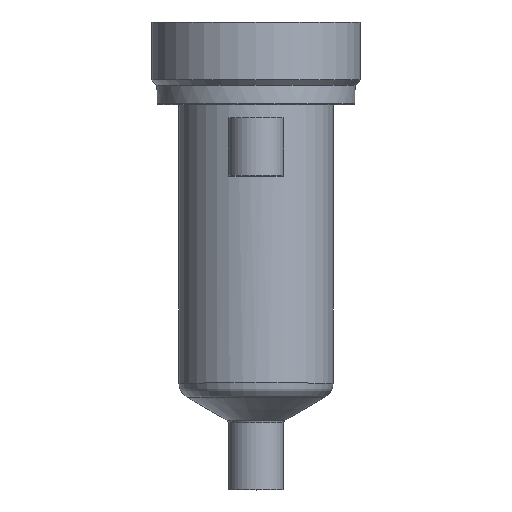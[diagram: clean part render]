
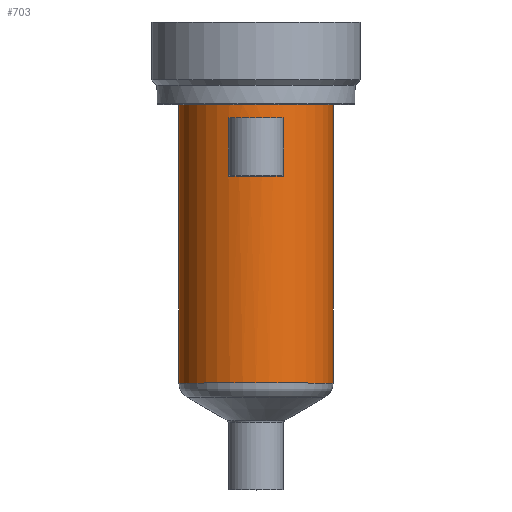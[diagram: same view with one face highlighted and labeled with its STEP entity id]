
A CAD part, top view. The second image highlights one B-rep face of the part: STEP entity #703.
In plain terms, the highlighted cylindrical face has radius 14 mm (diameter 28 mm), a partial arc.
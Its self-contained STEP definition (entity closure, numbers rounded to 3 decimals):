
#195=DIRECTION('',(0.,-1.,0.));
#196=VECTOR('',#195,50.583);
#197=CARTESIAN_POINT('',(14.,0.,0.));
#198=LINE('',#197,#196);
#199=CARTESIAN_POINT('',(0.,-50.583,0.));
#200=DIRECTION('',(0.,1.,0.));
#201=DIRECTION('',(-1.,0.,0.));
#202=AXIS2_PLACEMENT_3D('',#199,#200,#201);
#204=DIRECTION('',(0.,1.,0.));
#205=VECTOR('',#204,50.583);
#206=CARTESIAN_POINT('',(-14.,-50.583,0.));
#207=LINE('',#206,#205);
#208=CARTESIAN_POINT('',(0.,0.,0.));
#209=DIRECTION('',(0.,1.,0.));
#210=DIRECTION('',(-1.,0.,0.));
#211=AXIS2_PLACEMENT_3D('',#208,#209,#210);
#289=DIRECTION('',(0.,-1.,0.));
#290=VECTOR('',#289,10.5);
#291=CARTESIAN_POINT('',(-5.,-2.5,13.077));
#292=LINE('',#291,#290);
#297=CARTESIAN_POINT('',(0.,-13.,0.));
#298=DIRECTION('',(0.,1.,0.));
#299=DIRECTION('',(-0.357,0.,0.934));
#300=AXIS2_PLACEMENT_3D('',#297,#298,#299);
#332=CARTESIAN_POINT('',(0.,-2.5,0.));
#333=DIRECTION('',(0.,-1.,0.));
#334=DIRECTION('',(0.357,0.,0.934));
#335=AXIS2_PLACEMENT_3D('',#332,#333,#334);
#337=DIRECTION('',(0.,-1.,0.));
#338=VECTOR('',#337,10.5);
#339=CARTESIAN_POINT('',(5.,-2.5,13.077));
#340=LINE('',#339,#338);
#398=CARTESIAN_POINT('',(-14.,0.,0.));
#399=CARTESIAN_POINT('',(14.,0.,0.));
#400=VERTEX_POINT('',#398);
#401=VERTEX_POINT('',#399);
#410=CARTESIAN_POINT('',(5.,-2.5,13.077));
#411=VERTEX_POINT('',#410);
#412=CARTESIAN_POINT('',(-5.,-2.5,13.077));
#413=VERTEX_POINT('',#412);
#450=CARTESIAN_POINT('',(14.,-50.583,0.));
#451=VERTEX_POINT('',#450);
#460=CARTESIAN_POINT('',(-14.,-50.583,0.));
#461=VERTEX_POINT('',#460);
#462=CARTESIAN_POINT('',(-5.,-13.,13.077));
#463=CARTESIAN_POINT('',(5.,-13.,13.077));
#464=VERTEX_POINT('',#462);
#465=VERTEX_POINT('',#463);
#681=CARTESIAN_POINT('',(0.,16.4,0.));
#682=DIRECTION('',(0.,-1.,0.));
#683=DIRECTION('',(-1.,0.,0.));
#684=AXIS2_PLACEMENT_3D('',#681,#682,#683);
#685=CYLINDRICAL_SURFACE('',#684,14.);
#686=ORIENTED_EDGE('',*,*,#675,.T.);
#688=ORIENTED_EDGE('',*,*,#687,.F.);
#689=ORIENTED_EDGE('',*,*,#671,.T.);
#690=ORIENTED_EDGE('',*,*,#661,.T.);
#691=EDGE_LOOP('',(#686,#688,#689,#690));
#692=FACE_OUTER_BOUND('',#691,.F.);
#694=ORIENTED_EDGE('',*,*,#693,.T.);
#696=ORIENTED_EDGE('',*,*,#695,.T.);
#698=ORIENTED_EDGE('',*,*,#697,.F.);
#700=ORIENTED_EDGE('',*,*,#699,.T.);
#701=EDGE_LOOP('',(#694,#696,#698,#700));
#702=FACE_BOUND('',#701,.F.);
#703=ADVANCED_FACE('',(#692,#702),#685,.T.);
#203=CIRCLE('',#202,14.);
#212=CIRCLE('',#211,14.);
#301=CIRCLE('',#300,14.);
#336=CIRCLE('',#335,14.);
#661=EDGE_CURVE('',#400,#401,#212,.T.);
#671=EDGE_CURVE('',#461,#400,#207,.T.);
#675=EDGE_CURVE('',#401,#451,#198,.T.);
#687=EDGE_CURVE('',#461,#451,#203,.T.);
#693=EDGE_CURVE('',#413,#464,#292,.T.);
#695=EDGE_CURVE('',#464,#465,#301,.T.);
#697=EDGE_CURVE('',#411,#465,#340,.T.);
#699=EDGE_CURVE('',#411,#413,#336,.T.);
